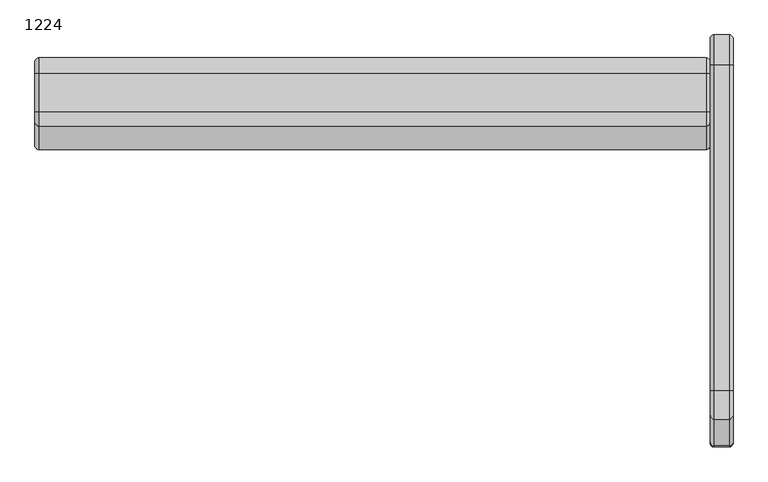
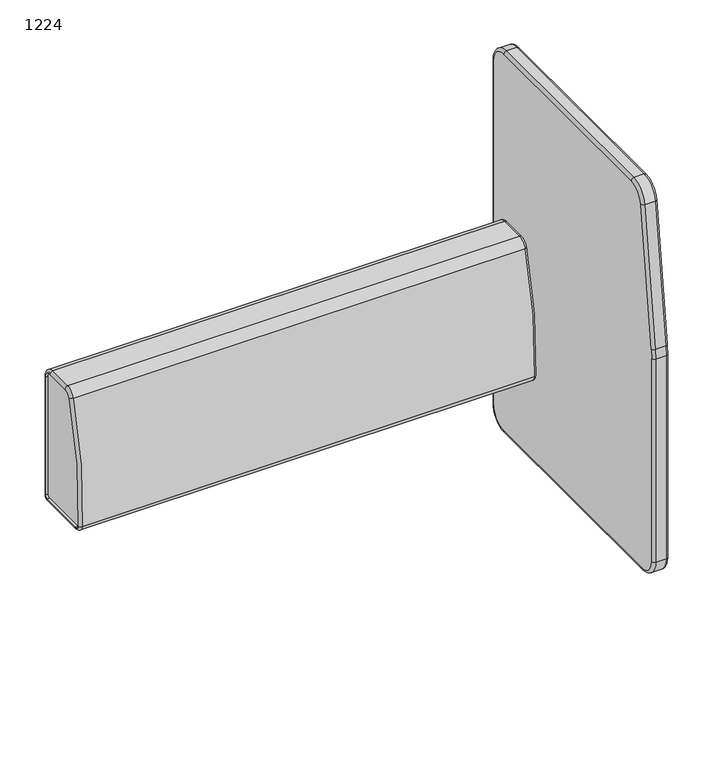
"""IFC4 building model written with IfcOpenShell, lengths in millimetres: furniture geometry, Laguna-Modular-Hideout-ERG : 1224."""

from ifc_helpers import new_model, si_unit, point, frame, origin, place, context, project, spatial, polyline, circle_curve, ellipse_curve, trimmed, source, transform, mapped, element, save
from ifc_brep_helpers import plane_surface, cylinder_surface, revolved_surface, advanced_brep


def furniture_1224_c7c1a432(model_context):
    return source(origin(), model_context, "Body", "AdvancedBrep", [
        advanced_brep(
        [(-3500.6921763, 635.4862683, 1147.5016884), (-3507.0421763, 641.7851414, 1146.6975135), (-3507.0421763, 597.5318227, 800.0738559), (-3500.6921763, 591.2329495, 800.8780307), (-3475.2921763, 591.2329495, 800.8780307), (-3475.2921763, 635.4862683, 1147.5016884), (-3468.9421763, 597.5318227, 800.0738559), (-3468.9421763, 641.7851414, 1146.6975135), (-3500.6921763, 589.6308502, 775.6785972), (-3507.0421763, 595.9808502, 775.6785972), (-3507.0421763, 595.9808502, 251.7902), (-3500.6921763, 589.6308502, 251.7902), (-3475.2921763, 589.6308502, 251.7902), (-3475.2921763, 589.6308502, 775.6785972), (-3468.9421763, 595.9808502, 251.7902), (-3468.9421763, 595.9808502, 775.6785972), (-3507.0421763, 638.2210502, 209.55), (-3500.6921763, 638.2210502, 203.2), (-3475.2921763, 638.2210502, 203.2), (-3468.9421763, 638.2210502, 209.55), (-3507.0421763, 1222.7258502, 209.55), (-3500.6921763, 1222.7258502, 203.2), (-3475.2921763, 1222.7258502, 203.2), (-3468.9421763, 1222.7258502, 209.55), (-3507.0421763, 1265.9058502, 252.73), (-3500.6921763, 1272.2558502, 252.73), (-3475.2921763, 1272.2558502, 252.73), (-3468.9421763, 1265.9058502, 252.73), (-3507.0421763, 1265.9058502, 1140.0520944), (-3500.6921763, 1272.2558502, 1140.0520944), (-3475.2921763, 1272.2558502, 1140.0520944), (-3468.9421763, 1265.9058502, 1140.0520944), (-3507.0421763, 1222.7258502, 1183.2320944), (-3500.6921763, 1222.7258502, 1189.5820944), (-3475.2921763, 1222.7258502, 1189.5820944), (-3468.9421763, 1222.7258502, 1183.2320944), (-3507.0421763, 683.2806242, 1183.2320944), (-3500.6921763, 683.2806242, 1189.5820944), (-3475.2921763, 683.2806242, 1189.5820944), (-3468.9421763, 683.2806242, 1183.2320944)],
        [
            (0, 1, circle_curve(frame((-3500.6921763, 641.7851414, 1146.6975135), z_axis=(0.0, -0.12664171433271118, -0.9919485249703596), x_axis=(0.0, 0.9919485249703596, -0.12664171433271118)), 6.35)),
            (1, 2),
            (2, 3, circle_curve(frame((-3500.6921763, 597.5318227, 800.0738559), z_axis=(0.0, 0.12664171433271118, 0.9919485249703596), x_axis=(0.0, 0.9919485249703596, -0.12664171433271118)), 6.35)),
            (3, 0),
            (3, 4),
            (4, 5),
            (5, 0),
            (4, 6, circle_curve(frame((-3475.2921763, 597.5318227, 800.0738559), z_axis=(0.0, 0.12664171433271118, 0.9919485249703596), x_axis=(0.0, 0.9919485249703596, -0.12664171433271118)), 6.35)),
            (6, 7),
            (7, 5, circle_curve(frame((-3475.2921763, 641.7851414, 1146.6975135), z_axis=(0.0, -0.12664171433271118, -0.9919485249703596), x_axis=(0.0, 0.9919485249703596, -0.12664171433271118)), 6.35)),
            (8, 9, circle_curve(frame((-3500.6921763, 595.9808502, 775.6785972), z_axis=(0.0, 0.0, -1.0), x_axis=(0.0, 1.0, 0.0)), 6.35)),
            (9, 10),
            (10, 11, circle_curve(frame((-3500.6921763, 595.9808502, 251.7902), z_axis=(0.0, 0.0, 1.0), x_axis=(0.0, 1.0, 0.0)), 6.35)),
            (11, 8),
            (11, 12),
            (12, 13),
            (13, 8),
            (12, 14, circle_curve(frame((-3475.2921763, 595.9808502, 251.7902), z_axis=(0.0, 0.0, 1.0), x_axis=(0.0, 1.0, 0.0)), 6.35)),
            (14, 15),
            (15, 13, circle_curve(frame((-3475.2921763, 595.9808502, 775.6785972), z_axis=(0.0, 0.0, -1.0), x_axis=(0.0, 1.0, 0.0)), 6.35)),
            (10, 16, circle_curve(frame((-3507.0421763, 638.2210502, 251.7902), z_axis=(1.0, 0.0, 0.0), x_axis=(0.0, -1.0, 0.0)), 42.2402)),
            (16, 17, circle_curve(frame((-3500.6921763, 638.2210502, 209.55), z_axis=(0.0, -1.0, 0.0), x_axis=(0.0, 0.0, 1.0)), 6.35)),
            (17, 11, circle_curve(frame((-3500.6921763, 638.2210502, 251.7902), z_axis=(-1.0, 0.0, 0.0), x_axis=(0.0, -1.0, 0.0)), 48.5902)),
            (17, 18),
            (18, 12, circle_curve(frame((-3475.2921763, 638.2210502, 251.7902), z_axis=(-1.0, 0.0, 0.0), x_axis=(0.0, -1.0, 0.0)), 48.5902)),
            (18, 19, circle_curve(frame((-3475.2921763, 638.2210502, 209.55), z_axis=(0.0, -1.0, 0.0), x_axis=(0.0, 0.0, 1.0)), 6.35)),
            (19, 14, circle_curve(frame((-3468.9421763, 638.2210502, 251.7902), z_axis=(-1.0, 0.0, 0.0), x_axis=(0.0, -1.0, 0.0)), 42.2402)),
            (16, 20),
            (20, 21, circle_curve(frame((-3500.6921763, 1222.7258502, 209.55), z_axis=(0.0, -1.0, 0.0), x_axis=(0.0, 0.0, 1.0)), 6.35)),
            (21, 17),
            (21, 22),
            (22, 18),
            (22, 23, circle_curve(frame((-3475.2921763, 1222.7258502, 209.55), z_axis=(0.0, -1.0, 0.0), x_axis=(0.0, 0.0, 1.0)), 6.35)),
            (23, 19),
            (20, 24, circle_curve(frame((-3507.0421763, 1222.7258502, 252.73), z_axis=(1.0, 0.0, 0.0), x_axis=(0.0, 0.0, -1.0)), 43.18)),
            (24, 25, circle_curve(frame((-3500.6921763, 1265.9058502, 252.73), z_axis=(0.0, 0.0, -1.0), x_axis=(0.0, -1.0, 0.0)), 6.35)),
            (25, 21, circle_curve(frame((-3500.6921763, 1222.7258502, 252.73), z_axis=(-1.0, 0.0, 0.0), x_axis=(0.0, 0.0, -1.0)), 49.53)),
            (25, 26),
            (26, 22, circle_curve(frame((-3475.2921763, 1222.7258502, 252.73), z_axis=(-1.0, 0.0, 0.0), x_axis=(0.0, 0.0, -1.0)), 49.53)),
            (26, 27, circle_curve(frame((-3475.2921763, 1265.9058502, 252.73), z_axis=(0.0, 0.0, -1.0), x_axis=(0.0, -1.0, 0.0)), 6.35)),
            (27, 23, circle_curve(frame((-3468.9421763, 1222.7258502, 252.73), z_axis=(-1.0, 0.0, 0.0), x_axis=(0.0, 0.0, -1.0)), 43.18)),
            (24, 28),
            (28, 29, circle_curve(frame((-3500.6921763, 1265.9058502, 1140.0520944), z_axis=(0.0, 0.0, -1.0), x_axis=(0.0, -1.0, 0.0)), 6.35)),
            (29, 25),
            (29, 30),
            (30, 26),
            (30, 31, circle_curve(frame((-3475.2921763, 1265.9058502, 1140.0520944), z_axis=(0.0, 0.0, -1.0), x_axis=(0.0, -1.0, 0.0)), 6.35)),
            (31, 27),
            (28, 32, circle_curve(frame((-3507.0421763, 1222.7258502, 1140.0520944), z_axis=(1.0, 0.0, 0.0), x_axis=(0.0, 1.0, 0.0)), 43.18)),
            (32, 33, circle_curve(frame((-3500.6921763, 1222.7258502, 1183.2320944), z_axis=(0.0, 1.0, 0.0), x_axis=(0.0, 0.0, -1.0)), 6.35)),
            (33, 29, circle_curve(frame((-3500.6921763, 1222.7258502, 1140.0520944), z_axis=(-1.0, 0.0, 0.0), x_axis=(0.0, 1.0, 0.0)), 49.53)),
            (33, 34),
            (34, 30, circle_curve(frame((-3475.2921763, 1222.7258502, 1140.0520944), z_axis=(-1.0, 0.0, 0.0), x_axis=(0.0, 1.0, 0.0)), 49.53)),
            (34, 35, circle_curve(frame((-3475.2921763, 1222.7258502, 1183.2320944), z_axis=(0.0, 1.0, 0.0), x_axis=(0.0, 0.0, -1.0)), 6.35)),
            (35, 31, circle_curve(frame((-3468.9421763, 1222.7258502, 1140.0520944), z_axis=(-1.0, 0.0, 0.0), x_axis=(0.0, 1.0, 0.0)), 43.18)),
            (32, 36),
            (36, 37, circle_curve(frame((-3500.6921763, 683.2806242, 1183.2320944), z_axis=(0.0, 1.0, 0.0), x_axis=(0.0, 0.0, -1.0)), 6.35)),
            (37, 33),
            (37, 38),
            (38, 34),
            (38, 39, circle_curve(frame((-3475.2921763, 683.2806242, 1183.2320944), z_axis=(0.0, 1.0, 0.0), x_axis=(0.0, 0.0, -1.0)), 6.35)),
            (39, 35),
            (0, 37, circle_curve(frame((-3500.6921763, 683.2806242, 1141.3998), z_axis=(-1.0, 0.0, 0.0), x_axis=(0.0, 0.0, 1.0)), 48.1822944)),
            (36, 1, circle_curve(frame((-3507.0421763, 683.2806242, 1141.3998), z_axis=(1.0, 0.0, 0.0), x_axis=(0.0, 0.0, 1.0)), 41.8322944)),
            (5, 38, circle_curve(frame((-3475.2921763, 683.2806242, 1141.3998), z_axis=(-1.0, 0.0, 0.0), x_axis=(0.0, 0.0, 1.0)), 48.1822944)),
            (7, 39, circle_curve(frame((-3468.9421763, 683.2806242, 1141.3998), z_axis=(-1.0, 0.0, 0.0), x_axis=(0.0, 0.0, 1.0)), 41.8322944)),
            (9, 2, circle_curve(frame((-3507.0421763, 788.6129446, 775.6785972), z_axis=(-1.0, 0.0, 0.0), x_axis=(0.0, -0.9919485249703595, 0.12664171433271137)), 192.6320944)),
            (8, 3, circle_curve(frame((-3500.6921763, 788.6129446, 775.6785972), z_axis=(-1.0, 0.0, 0.0), x_axis=(0.0, -0.9919485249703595, 0.12664171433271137)), 198.9820944)),
            (13, 4, circle_curve(frame((-3475.2921763, 788.6129446, 775.6785972), z_axis=(-1.0, 0.0, 0.0), x_axis=(0.0, -0.9919485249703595, 0.12664171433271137)), 198.9820944)),
            (15, 6, circle_curve(frame((-3468.9421763, 788.6129446, 775.6785972), z_axis=(-1.0, 0.0, 0.0), x_axis=(0.0, -0.9919485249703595, 0.12664171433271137)), 192.6320944)),
        ],
        [
            cylinder_surface(frame((-3500.6921763, 641.7851414, 1146.6975135), z_axis=(0.0, 0.12664171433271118, 0.9919485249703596), x_axis=(0.0, 0.9919485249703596, -0.12664171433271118)), 6.35),
            plane_surface(frame((-3500.6921763, 635.4862683, 1147.5016884), z_axis=(0.0, -0.9919485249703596, 0.12664171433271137), x_axis=(0.0, -0.12664171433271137, -0.9919485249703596))),
            cylinder_surface(frame((-3475.2921763, 641.7851414, 1146.6975135), z_axis=(0.0, 0.12664171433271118, 0.9919485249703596), x_axis=(0.0, 0.9919485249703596, -0.12664171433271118)), 6.35),
            cylinder_surface(frame((-3500.6921763, 595.9808502, 775.6785972), z_axis=(0.0, 0.0, 1.0), x_axis=(0.0, 1.0, 0.0)), 6.35),
            plane_surface(frame((-3500.6921763, 589.6308502, 775.6785972), z_axis=(0.0, -1.0, 0.0), x_axis=(0.0, 0.0, -1.0))),
            cylinder_surface(frame((-3475.2921763, 595.9808502, 775.6785972), z_axis=(0.0, 0.0, 1.0), x_axis=(0.0, 1.0, 0.0)), 6.35),
            revolved_surface(trimmed(ellipse_curve(frame((-3500.6921763, 595.9808502, 251.7902), z_axis=(0.0, 0.0, 1.0), x_axis=(0.0, 1.0, 0.0)), 6.35, 6.35), [point((-3507.0421763, 595.9808502, 251.7902))], [point((-3500.6921763, 589.6308502, 251.7902))], True, "CARTESIAN"), (-3468.9421763, 638.2210502, 251.7902), (1.0, 0.0, 0.0)),
            cylinder_surface(frame((-3468.9421763, 638.2210502, 251.7902), z_axis=(1.0, 0.0, 0.0), x_axis=(0.0, -1.0, 0.0)), 48.5902),
            revolved_surface(trimmed(ellipse_curve(frame((-3475.2921763, 595.9808502, 251.7902), z_axis=(0.0, 0.0, 1.0), x_axis=(0.0, 1.0, 0.0)), 6.35, 6.35), [point((-3475.2921763, 589.6308502, 251.7902))], [point((-3468.9421763, 595.9808502, 251.7902))], True, "CARTESIAN"), (-3468.9421763, 638.2210502, 251.7902), (1.0, 0.0, 0.0)),
            cylinder_surface(frame((-3500.6921763, 638.2210502, 209.55), z_axis=(0.0, -1.0, 0.0), x_axis=(0.0, 0.0, 1.0)), 6.35),
            plane_surface(frame((-3500.6921763, 638.2210502, 203.2), z_axis=(0.0, 0.0, -1.0), x_axis=(0.0, 1.0, 0.0))),
            cylinder_surface(frame((-3475.2921763, 638.2210502, 209.55), z_axis=(0.0, -1.0, 0.0), x_axis=(0.0, 0.0, 1.0)), 6.35),
            revolved_surface(trimmed(ellipse_curve(frame((-3500.6921763, 1222.7258502, 209.55), z_axis=(0.0, -1.0, 0.0), x_axis=(0.0, 0.0, 1.0)), 6.35, 6.35), [point((-3507.0421763, 1222.7258502, 209.55))], [point((-3500.6921763, 1222.7258502, 203.2))], True, "CARTESIAN"), (-3468.9421763, 1222.7258502, 252.73), (1.0, 0.0, 0.0)),
            cylinder_surface(frame((-3468.9421763, 1222.7258502, 252.73), z_axis=(1.0, 0.0, 0.0), x_axis=(0.0, 0.0, -1.0)), 49.53),
            revolved_surface(trimmed(ellipse_curve(frame((-3475.2921763, 1222.7258502, 209.55), z_axis=(0.0, -1.0, 0.0), x_axis=(0.0, 0.0, 1.0)), 6.35, 6.35), [point((-3475.2921763, 1222.7258502, 203.2))], [point((-3468.9421763, 1222.7258502, 209.55))], True, "CARTESIAN"), (-3468.9421763, 1222.7258502, 252.73), (1.0, 0.0, 0.0)),
            cylinder_surface(frame((-3500.6921763, 1265.9058502, 252.73), z_axis=(0.0, 0.0, -1.0), x_axis=(0.0, -1.0, 0.0)), 6.35),
            plane_surface(frame((-3500.6921763, 1272.2558502, 252.73), z_axis=(0.0, 1.0, 0.0), x_axis=(0.0, 0.0, 1.0))),
            cylinder_surface(frame((-3475.2921763, 1265.9058502, 252.73), z_axis=(0.0, 0.0, -1.0), x_axis=(0.0, -1.0, 0.0)), 6.35),
            revolved_surface(trimmed(ellipse_curve(frame((-3500.6921763, 1265.9058502, 1140.0520944), z_axis=(0.0, 0.0, -1.0), x_axis=(0.0, -1.0, 0.0)), 6.35, 6.35), [point((-3507.0421763, 1265.9058502, 1140.0520944))], [point((-3500.6921763, 1272.2558502, 1140.0520944))], True, "CARTESIAN"), (-3468.9421763, 1222.7258502, 1140.0520944), (1.0, 0.0, 0.0)),
            cylinder_surface(frame((-3468.9421763, 1222.7258502, 1140.0520944), z_axis=(1.0, 0.0, 0.0), x_axis=(0.0, 1.0, 0.0)), 49.53),
            revolved_surface(trimmed(ellipse_curve(frame((-3475.2921763, 1265.9058502, 1140.0520944), z_axis=(0.0, 0.0, -1.0), x_axis=(0.0, -1.0, 0.0)), 6.35, 6.35), [point((-3475.2921763, 1272.2558502, 1140.0520944))], [point((-3468.9421763, 1265.9058502, 1140.0520944))], True, "CARTESIAN"), (-3468.9421763, 1222.7258502, 1140.0520944), (1.0, 0.0, 0.0)),
            cylinder_surface(frame((-3500.6921763, 1222.7258502, 1183.2320944), z_axis=(0.0, 1.0, 0.0), x_axis=(0.0, 0.0, -1.0)), 6.35),
            plane_surface(frame((-3500.6921763, 1222.7258502, 1189.5820944), z_axis=(0.0, 0.0, 1.0), x_axis=(0.0, -1.0, 0.0))),
            cylinder_surface(frame((-3475.2921763, 1222.7258502, 1183.2320944), z_axis=(0.0, 1.0, 0.0), x_axis=(0.0, 0.0, -1.0)), 6.35),
            revolved_surface(trimmed(ellipse_curve(frame((-3500.6921763, 683.2806242, 1183.2320944), z_axis=(0.0, 1.0, 0.0), x_axis=(0.0, 0.0, -1.0)), 6.35, 6.35), [point((-3507.0421763, 683.2806242, 1183.2320944))], [point((-3500.6921763, 683.2806242, 1189.5820944))], True, "CARTESIAN"), (-3468.9421763, 683.2806242, 1141.3998), (1.0, 0.0, 0.0)),
            cylinder_surface(frame((-3468.9421763, 683.2806242, 1141.3998), z_axis=(1.0, 0.0, 0.0), x_axis=(0.0, 0.0, 1.0)), 48.1822944),
            revolved_surface(trimmed(ellipse_curve(frame((-3475.2921763, 683.2806242, 1183.2320944), z_axis=(0.0, 1.0, 0.0), x_axis=(0.0, 0.0, -1.0)), 6.35, 6.35), [point((-3475.2921763, 683.2806242, 1189.5820944))], [point((-3468.9421763, 683.2806242, 1183.2320944))], True, "CARTESIAN"), (-3468.9421763, 683.2806242, 1141.3998), (1.0, 0.0, 0.0)),
            plane_surface(frame((-3507.0421763, 788.6129446, 775.6785972), z_axis=(-1.0000000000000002, 0.0, 0.0), x_axis=(0.0, -0.9919485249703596, 0.1266417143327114))),
            revolved_surface(trimmed(ellipse_curve(frame((-3500.6921763, 597.5318227, 800.0738559), z_axis=(0.0, 0.12664171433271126, 0.9919485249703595), x_axis=(0.0, 0.9919485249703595, -0.12664171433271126)), 6.35, 6.35), [point((-3507.0421763, 597.5318227, 800.0738559))], [point((-3500.6921763, 591.2329495, 800.8780307))], True, "CARTESIAN"), (-3468.9421763, 788.6129446, 775.6785972), (1.0, 0.0, 0.0)),
            cylinder_surface(frame((-3468.9421763, 788.6129446, 775.6785972), z_axis=(1.0, 0.0, 0.0), x_axis=(0.0, -0.9919485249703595, 0.12664171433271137)), 198.9820944),
            revolved_surface(trimmed(ellipse_curve(frame((-3475.2921763, 597.5318227, 800.0738559), z_axis=(0.0, 0.12664171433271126, 0.9919485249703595), x_axis=(0.0, 0.9919485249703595, -0.12664171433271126)), 6.35, 6.35), [point((-3475.2921763, 591.2329495, 800.8780307))], [point((-3468.9421763, 597.5318227, 800.0738559))], True, "CARTESIAN"), (-3468.9421763, 788.6129446, 775.6785972), (1.0, 0.0, 0.0)),
            plane_surface(frame((-3468.9421763, 788.6129446, 775.6785972), z_axis=(1.0000000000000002, 0.0, 0.0), x_axis=(0.0, -0.9919485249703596, 0.1266417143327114))),
        ],
        [
            (0, [[1, 2, 3, 4]]),
            (1, [[-4, 5, 6, 7]]),
            (2, [[-6, 8, 9, 10]]),
            (3, [[11, 12, 13, 14]]),
            (4, [[-14, 15, 16, 17]]),
            (5, [[-16, 18, 19, 20]]),
            (6, [[-13, 21, 22, 23]]),
            (7, [[-15, -23, 24, 25]]),
            (8, [[-18, -25, 26, 27]]),
            (9, [[-22, 28, 29, 30]]),
            (10, [[-24, -30, 31, 32]]),
            (11, [[-26, -32, 33, 34]]),
            (12, [[-29, 35, 36, 37]]),
            (13, [[-31, -37, 38, 39]]),
            (14, [[-33, -39, 40, 41]]),
            (15, [[-36, 42, 43, 44]]),
            (16, [[-38, -44, 45, 46]]),
            (17, [[-40, -46, 47, 48]]),
            (18, [[-43, 49, 50, 51]]),
            (19, [[-45, -51, 52, 53]]),
            (20, [[-47, -53, 54, 55]]),
            (21, [[-50, 56, 57, 58]]),
            (22, [[-52, -58, 59, 60]]),
            (23, [[-54, -60, 61, 62]]),
            (24, [[-1, 63, -57, 64]]),
            (25, [[-7, 65, -59, -63]]),
            (26, [[-10, 66, -61, -65]]),
            (27, [[-2, -64, -56, -49, -42, -35, -28, -21, -12, 67]]),
            (28, [[-3, -67, -11, 68]]),
            (29, [[-5, -68, -17, 69]]),
            (30, [[-8, -69, -20, 70]]),
            (31, [[-9, -70, -19, -27, -34, -41, -48, -55, -62, -66]]),
        ],
    ),
        advanced_brep(
        [(-4618.2921763, 1121.3089686, 744.3916508), (-4624.6421763, 1127.3528197, 742.4437381), (-4624.6421763, 1088.8035624, 436.3225994), (-4618.2921763, 1082.4654689, 435.9339217), (-4618.2921763, 1127.3528197, 742.4437381), (-4618.2921763, 1088.8035624, 436.3225994), (-4624.6421763, 1100.3633388, 425.45), (-4618.2921763, 1100.3633388, 419.1), (-4618.2921763, 1100.3633388, 425.45), (-4624.6421763, 1221.4558502, 425.45), (-4618.2921763, 1221.4558502, 419.1), (-4618.2921763, 1221.4558502, 425.45), (-4624.6421763, 1227.8058502, 431.8), (-4618.2921763, 1234.1558502, 431.8), (-4618.2921763, 1227.8058502, 431.8), (-4624.6421763, 1227.8058502, 736.6), (-4618.2921763, 1234.1558502, 736.6), (-4618.2921763, 1227.8058502, 736.6), (-4624.6421763, 1208.7558502, 755.65), (-4618.2921763, 1208.7558502, 762.0), (-4618.2921763, 1208.7558502, 755.65), (-4624.6421763, 1145.484373, 755.65), (-4618.2921763, 1145.484373, 762.0), (-4618.2921763, 1145.484373, 755.65), (-3513.3921763, 1227.8058502, 736.6), (-3513.3921763, 1208.7558502, 755.65), (-3513.3921763, 1145.484373, 755.65), (-3513.3921763, 1127.3528197, 742.4437381), (-3513.3921763, 1088.8035624, 436.3225994), (-3513.3921763, 1100.3633388, 425.45), (-3513.3921763, 1221.4558502, 425.45), (-3513.3921763, 1227.8058502, 431.8), (-3513.3921763, 1082.4654689, 435.9339217), (-3513.3921763, 1100.3633388, 419.1), (-3513.3921763, 1221.4558502, 419.1), (-3513.3921763, 1234.1558502, 431.8), (-3513.3921763, 1234.1558502, 736.6), (-3513.3921763, 1208.7558502, 762.0), (-3513.3921763, 1145.484373, 762.0), (-3513.3921763, 1121.3089686, 744.3916508), (-3507.0421763, 1227.8058502, 736.6), (-3507.0421763, 1208.7558502, 755.65), (-3507.0421763, 1145.484373, 755.65), (-3507.0421763, 1127.3528197, 742.4437381), (-3507.0421763, 1088.8035624, 436.3225994), (-3507.0421763, 1100.3633388, 425.45), (-3507.0421763, 1221.4558502, 425.45), (-3507.0421763, 1227.8058502, 431.8)],
        [
            (0, 1, circle_curve(frame((-4618.2921763, 1127.3528197, 742.4437381), z_axis=(0.0, -0.3067579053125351, -0.95178757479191), x_axis=(0.0, 0.95178757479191, -0.3067579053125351)), 6.35)),
            (1, 2, circle_curve(frame((-4624.6421763, 1919.1691857, 487.2440105), z_axis=(1.0, 0.0, 0.0), x_axis=(0.0, -0.95178757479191, 0.30675790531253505)), 831.9255126)),
            (2, 3, circle_curve(frame((-4618.2921763, 1088.8035624, 436.3225994), z_axis=(0.0, -0.06120909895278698, 0.9981249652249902), x_axis=(0.0, 0.9981249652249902, 0.06120909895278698)), 6.35)),
            (3, 0, circle_curve(frame((-4618.2921763, 1919.1691857, 487.2440105), z_axis=(-1.0, 0.0, 0.0), x_axis=(0.0, -0.95178757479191, 0.30675790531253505)), 838.2755126)),
            (1, 4),
            (4, 5, circle_curve(frame((-4618.2921763, 1919.1691857, 487.2440105), z_axis=(1.0, 0.0, 0.0), x_axis=(0.0, -0.95178757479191, 0.30675790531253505)), 831.9255126)),
            (5, 2),
            (2, 6, circle_curve(frame((-4624.6421763, 1100.3633388, 437.0314921), z_axis=(1.0, 0.0, 0.0), x_axis=(0.0, -0.9981249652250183, -0.06120909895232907)), 11.5814921)),
            (6, 7, circle_curve(frame((-4618.2921763, 1100.3633388, 425.45), z_axis=(0.0, -0.9999999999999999, 0.0), x_axis=(0.0, 0.0, 0.9999999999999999)), 6.35)),
            (7, 3, circle_curve(frame((-4618.2921763, 1100.3633388, 437.0314921), z_axis=(-1.0, 0.0, 0.0), x_axis=(0.0, -0.9981249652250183, -0.06120909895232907)), 17.9314921)),
            (5, 8, circle_curve(frame((-4618.2921763, 1100.3633388, 437.0314921), z_axis=(1.0, 0.0, 0.0), x_axis=(0.0, -0.9981249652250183, -0.06120909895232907)), 11.5814921)),
            (8, 6),
            (6, 9),
            (9, 10, circle_curve(frame((-4618.2921763, 1221.4558502, 425.45), z_axis=(0.0, -1.0, 0.0), x_axis=(0.0, 0.0, 1.0)), 6.35)),
            (10, 7),
            (8, 11),
            (11, 9),
            (9, 12, circle_curve(frame((-4624.6421763, 1221.4558502, 431.8), z_axis=(1.0, 0.0, 0.0), x_axis=(0.0, 0.0, -1.0)), 6.35)),
            (12, 13, circle_curve(frame((-4618.2921763, 1227.8058502, 431.8), z_axis=(0.0, 0.0, -1.0), x_axis=(0.0, -1.0, 0.0)), 6.35)),
            (13, 10, circle_curve(frame((-4618.2921763, 1221.4558502, 431.8), z_axis=(-1.0, 0.0, 0.0), x_axis=(0.0, 0.0, -1.0)), 12.7)),
            (11, 14, circle_curve(frame((-4618.2921763, 1221.4558502, 431.8), z_axis=(1.0, 0.0, 0.0), x_axis=(0.0, 0.0, -1.0)), 6.35)),
            (14, 12),
            (12, 15),
            (15, 16, circle_curve(frame((-4618.2921763, 1227.8058502, 736.6), z_axis=(0.0, 0.0, -1.0), x_axis=(0.0, -1.0, 0.0)), 6.35)),
            (16, 13),
            (14, 17),
            (17, 15),
            (15, 18, circle_curve(frame((-4624.6421763, 1208.7558502, 736.6), z_axis=(1.0, 0.0, 0.0), x_axis=(0.0, 1.0, 0.0)), 19.05)),
            (18, 19, circle_curve(frame((-4618.2921763, 1208.7558502, 755.65), z_axis=(0.0, 1.0, 0.0), x_axis=(0.0, 0.0, -1.0)), 6.35)),
            (19, 16, circle_curve(frame((-4618.2921763, 1208.7558502, 736.6), z_axis=(-1.0, 0.0, 0.0), x_axis=(0.0, 1.0, 0.0)), 25.4)),
            (17, 20, circle_curve(frame((-4618.2921763, 1208.7558502, 736.6), z_axis=(1.0, 0.0, 0.0), x_axis=(0.0, 1.0, 0.0)), 19.05)),
            (20, 18),
            (18, 21),
            (21, 22, circle_curve(frame((-4618.2921763, 1145.484373, 755.65), z_axis=(0.0, 1.0, 0.0), x_axis=(0.0, 0.0, -1.0)), 6.35)),
            (22, 19),
            (20, 23),
            (23, 21),
            (0, 22, circle_curve(frame((-4618.2921763, 1145.484373, 736.6), z_axis=(-1.0, 0.0, 0.0), x_axis=(0.0, 0.0, 1.0)), 25.4)),
            (21, 1, circle_curve(frame((-4624.6421763, 1145.484373, 736.6), z_axis=(1.0, 0.0, 0.0), x_axis=(0.0, 0.0, 1.0)), 19.05)),
            (23, 4, circle_curve(frame((-4618.2921763, 1145.484373, 736.6), z_axis=(1.0, 0.0, 0.0), x_axis=(0.0, 0.0, 1.0)), 19.05)),
            (24, 25, circle_curve(frame((-3513.3921763, 1208.7558502, 736.6), z_axis=(1.0, 0.0, 0.0), x_axis=(0.0, 1.0, 0.0)), 19.05)),
            (25, 26),
            (26, 27, circle_curve(frame((-3513.3921763, 1145.484373, 736.6), z_axis=(1.0, 0.0, 0.0), x_axis=(0.0, 0.0, 1.0)), 19.05)),
            (27, 28, circle_curve(frame((-3513.3921763, 1919.1691857, 487.2440105), z_axis=(1.0, 0.0, 0.0), x_axis=(0.0, -0.95178757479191, 0.30675790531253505)), 831.9255126)),
            (28, 29, circle_curve(frame((-3513.3921763, 1100.3633388, 437.0314921), z_axis=(1.0, 0.0, 0.0), x_axis=(0.0, -0.9981249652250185, -0.06120909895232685)), 11.5814921)),
            (29, 30),
            (30, 31, circle_curve(frame((-3513.3921763, 1221.4558502, 431.8), z_axis=(1.0, 0.0, 0.0), x_axis=(0.0, 0.0, -1.0)), 6.35)),
            (31, 24),
            (32, 3),
            (7, 33),
            (33, 32, circle_curve(frame((-3513.3921763, 1100.3633388, 437.0314921), z_axis=(-1.0, 0.0, 0.0), x_axis=(0.0, 1.0, 0.0)), 17.9314921)),
            (10, 34),
            (34, 33),
            (13, 35),
            (35, 34, circle_curve(frame((-3513.3921763, 1221.4558502, 431.8), z_axis=(-1.0, 0.0, 0.0), x_axis=(0.0, 1.0, 0.0)), 12.7)),
            (16, 36),
            (36, 35),
            (19, 37),
            (37, 36, circle_curve(frame((-3513.3921763, 1208.7558502, 736.6), z_axis=(-1.0, 0.0, 0.0), x_axis=(0.0, 1.0, 0.0)), 25.4)),
            (22, 38),
            (38, 37),
            (0, 39),
            (39, 38, circle_curve(frame((-3513.3921763, 1145.484373, 736.6), z_axis=(-1.0, 0.0, 0.0), x_axis=(0.0, 1.0, 0.0)), 25.4)),
            (32, 39, circle_curve(frame((-3513.3921763, 1919.1691857, 487.2440105), z_axis=(-1.0, 0.0, 0.0), x_axis=(0.0, 1.0, 0.0)), 838.2755126)),
            (24, 40),
            (40, 41, circle_curve(frame((-3507.0421763, 1208.7558502, 736.6), z_axis=(1.0, 0.0, 0.0), x_axis=(0.0, 1.0, 0.0)), 19.05)),
            (41, 25),
            (40, 36, circle_curve(frame((-3513.3921763, 1227.8058502, 736.6), z_axis=(0.0, 0.0, 1.0), x_axis=(0.0, -1.0, 0.0)), 6.35)),
            (37, 41, circle_curve(frame((-3513.3921763, 1208.7558502, 755.65), z_axis=(0.0, 1.0, 0.0), x_axis=(0.0, 0.0, -1.0)), 6.35)),
            (41, 42),
            (42, 26),
            (38, 42, circle_curve(frame((-3513.3921763, 1145.484373, 755.65), z_axis=(0.0, 1.0, 0.0), x_axis=(0.0, 0.0, -1.0)), 6.35)),
            (42, 43, circle_curve(frame((-3507.0421763, 1145.484373, 736.6), z_axis=(1.0, 0.0, 0.0), x_axis=(0.0, 0.0, 1.0)), 19.05)),
            (43, 27),
            (39, 43, circle_curve(frame((-3513.3921763, 1127.3528197, 742.4437381), z_axis=(0.0, 0.30675790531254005, 0.9517875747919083), x_axis=(0.0, 0.9517875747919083, -0.30675790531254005)), 6.35)),
            (43, 44, circle_curve(frame((-3507.0421763, 1919.1691857, 487.2440105), z_axis=(1.0, 0.0, 0.0), x_axis=(0.0, -0.95178757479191, 0.30675790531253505)), 831.9255126)),
            (44, 28),
            (32, 44, circle_curve(frame((-3513.3921763, 1088.8035624, 436.3225994), z_axis=(0.0, -0.06120909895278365, 0.9981249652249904), x_axis=(0.0, 0.9981249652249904, 0.06120909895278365)), 6.35)),
            (44, 45, circle_curve(frame((-3507.0421763, 1100.3633388, 437.0314921), z_axis=(1.0, 0.0, 0.0), x_axis=(0.0, -0.9981249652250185, -0.06120909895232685)), 11.5814921)),
            (45, 29),
            (33, 45, circle_curve(frame((-3513.3921763, 1100.3633388, 425.45), z_axis=(0.0, -1.0, 0.0), x_axis=(0.0, 0.0, 1.0)), 6.35)),
            (45, 46),
            (46, 30),
            (34, 46, circle_curve(frame((-3513.3921763, 1221.4558502, 425.45), z_axis=(0.0, -1.0, 0.0), x_axis=(0.0, 0.0, 1.0)), 6.35)),
            (46, 47, circle_curve(frame((-3507.0421763, 1221.4558502, 431.8), z_axis=(1.0, 0.0, 0.0), x_axis=(0.0, 0.0, -1.0)), 6.35)),
            (47, 31),
            (35, 47, circle_curve(frame((-3513.3921763, 1227.8058502, 431.8), z_axis=(0.0, 0.0, -1.0), x_axis=(0.0, -1.0, 0.0)), 6.35)),
            (47, 40),
        ],
        [
            revolved_surface(trimmed(ellipse_curve(frame((-4618.2921763, 1127.3528197, 742.4437381), z_axis=(0.0, 0.3067579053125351, 0.95178757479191), x_axis=(0.0, 0.95178757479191, -0.3067579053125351)), 6.35, 6.35), [point((-4624.6421763, 1127.3528197, 742.4437381))], [point((-4618.2921763, 1121.3089686, 744.3916508))], True, "CARTESIAN"), (-4618.2921763, 1919.1691857, 487.2440105), (1.0, 0.0, 0.0)),
            revolved_surface(polyline([(-4618.2921763, 1127.3528196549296, 742.443738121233), (-4624.6421763, 1127.3528196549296, 742.443738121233)]), (-4618.2921763, 1919.1691857, 487.2440105), (1.0, 0.0, 0.0)),
            revolved_surface(trimmed(ellipse_curve(frame((-4618.2921763, 1088.8035624, 436.3225994), z_axis=(0.0, -0.06120909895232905, 0.9981249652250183), x_axis=(0.0, 0.9981249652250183, 0.06120909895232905)), 6.35, 6.35), [point((-4624.6421763, 1088.8035624, 436.3225994))], [point((-4618.2921763, 1082.4654689, 435.9339217))], True, "CARTESIAN"), (-4618.2921763, 1100.3633388, 437.0314921), (1.0, 0.0, 0.0)),
            revolved_surface(polyline([(-4618.2921763, 1088.8035624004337, 436.3225994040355), (-4624.6421763, 1088.8035624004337, 436.3225994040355)]), (-4618.2921763, 1100.3633388, 437.0314921), (1.0, 0.0, 0.0)),
            cylinder_surface(frame((-4618.2921763, 1100.3633388, 425.45), z_axis=(0.0, -1.0, 0.0), x_axis=(0.0, 0.0, 1.0)), 6.35),
            plane_surface(frame((-4618.2921763, 1100.3633388, 425.45), z_axis=(0.0, 0.0, 1.0), x_axis=(0.0, 1.0, 0.0))),
            revolved_surface(trimmed(ellipse_curve(frame((-4618.2921763, 1221.4558502, 425.45), z_axis=(0.0, -1.0, 0.0), x_axis=(0.0, 0.0, 1.0)), 6.35, 6.35), [point((-4624.6421763, 1221.4558502, 425.45))], [point((-4618.2921763, 1221.4558502, 419.1))], True, "CARTESIAN"), (-4618.2921763, 1221.4558502, 431.8), (1.0, 0.0, 0.0)),
            revolved_surface(polyline([(-4618.2921763, 1221.4558502, 425.45), (-4624.6421763, 1221.4558502, 425.45)]), (-4618.2921763, 1221.4558502, 431.8), (1.0, 0.0, 0.0)),
            cylinder_surface(frame((-4618.2921763, 1227.8058502, 431.8), z_axis=(0.0, 0.0, -1.0), x_axis=(0.0, -1.0, 0.0)), 6.35),
            plane_surface(frame((-4618.2921763, 1227.8058502, 431.8), z_axis=(0.0, -1.0, 0.0), x_axis=(0.0, 0.0, 1.0))),
            revolved_surface(trimmed(ellipse_curve(frame((-4618.2921763, 1227.8058502, 736.6), z_axis=(0.0, 0.0, -1.0), x_axis=(0.0, -1.0, 0.0)), 6.35, 6.35), [point((-4624.6421763, 1227.8058502, 736.6))], [point((-4618.2921763, 1234.1558502, 736.6))], True, "CARTESIAN"), (-4618.2921763, 1208.7558502, 736.6), (1.0, 0.0, 0.0)),
            revolved_surface(polyline([(-4618.2921763, 1227.8058502, 736.6), (-4624.6421763, 1227.8058502, 736.6)]), (-4618.2921763, 1208.7558502, 736.6), (1.0, 0.0, 0.0)),
            cylinder_surface(frame((-4618.2921763, 1208.7558502, 755.65), z_axis=(0.0, 1.0, 0.0), x_axis=(0.0, 0.0, -1.0)), 6.35),
            plane_surface(frame((-4618.2921763, 1208.7558502, 755.65), z_axis=(0.0, 0.0, -1.0), x_axis=(0.0, -1.0, 0.0))),
            revolved_surface(trimmed(ellipse_curve(frame((-4618.2921763, 1145.484373, 755.65), z_axis=(0.0, 1.0, 0.0), x_axis=(0.0, 0.0, -1.0)), 6.35, 6.35), [point((-4624.6421763, 1145.484373, 755.65))], [point((-4618.2921763, 1145.484373, 762.0))], True, "CARTESIAN"), (-4618.2921763, 1145.484373, 736.6), (1.0, 0.0, 0.0)),
            revolved_surface(polyline([(-4618.2921763, 1145.484373, 755.65), (-4624.6421763, 1145.484373, 755.65)]), (-4618.2921763, 1145.484373, 736.6), (1.0, 0.0, 0.0)),
            plane_surface(frame((-3513.3921763, 1118.294831, 437.0314921), z_axis=(1.0, 0.0, 0.0), x_axis=(0.0, 0.0, 1.0))),
            plane_surface(frame((-4618.2921763, 1118.294831, 437.0314921), z_axis=(-1.0, 0.0, 0.0), x_axis=(0.0, 0.0, -1.0))),
            cylinder_surface(frame((-4618.2921763, 1100.3633388, 437.0314921), z_axis=(1.0, 0.0, 0.0), x_axis=(0.0, 1.0, 0.0)), 17.9314921),
            plane_surface(frame((-3513.3921763, 1100.3633388, 419.1), z_axis=(0.0, 0.0, -1.0), x_axis=(-1.0, 0.0, 0.0))),
            cylinder_surface(frame((-4618.2921763, 1221.4558502, 431.8), z_axis=(1.0, 0.0, 0.0), x_axis=(0.0, 1.0, 0.0)), 12.7),
            plane_surface(frame((-3513.3921763, 1234.1558502, 431.8), z_axis=(0.0, 1.0, 0.0), x_axis=(-1.0, 0.0, 0.0))),
            cylinder_surface(frame((-4618.2921763, 1208.7558502, 736.6), z_axis=(1.0, 0.0, 0.0), x_axis=(0.0, 1.0, 0.0)), 25.4),
            plane_surface(frame((-3513.3921763, 1208.7558502, 762.0), z_axis=(0.0, 0.0, 1.0), x_axis=(-1.0, 0.0, 0.0))),
            cylinder_surface(frame((-4618.2921763, 1145.484373, 736.6), z_axis=(1.0, 0.0, 0.0), x_axis=(0.0, 1.0, 0.0)), 25.4),
            cylinder_surface(frame((-4618.2921763, 1919.1691857, 487.2440105), z_axis=(1.0, 0.0, 0.0), x_axis=(0.0, 1.0, 0.0)), 838.2755126),
            revolved_surface(polyline([(-3507.0421763, 1227.8058502, 736.6), (-3513.3921763, 1227.8058502, 736.6)]), (-3513.3921763, 1208.7558502, 736.6), (1.0, 0.0, 0.0)),
            revolved_surface(trimmed(ellipse_curve(frame((-3513.3921763, 1227.8058502, 736.6), z_axis=(0.0, 0.0, -1.0), x_axis=(0.0, -1.0, 0.0)), 6.35, 6.35), [point((-3513.3921763, 1234.1558502, 736.6))], [point((-3507.0421763, 1227.8058502, 736.6))], True, "CARTESIAN"), (-3513.3921763, 1208.7558502, 736.6), (1.0, 0.0, 0.0)),
            plane_surface(frame((-3507.0421763, 1208.7558502, 755.65), z_axis=(0.0, 0.0, -1.0), x_axis=(0.0, -1.0, 0.0))),
            cylinder_surface(frame((-3513.3921763, 1208.7558502, 755.65), z_axis=(0.0, 1.0, 0.0), x_axis=(0.0, 0.0, -1.0)), 6.35),
            revolved_surface(polyline([(-3507.0421763, 1145.484373, 755.65), (-3513.3921763, 1145.484373, 755.65)]), (-3513.3921763, 1145.484373, 736.6), (1.0, 0.0, 0.0)),
            revolved_surface(trimmed(ellipse_curve(frame((-3513.3921763, 1145.484373, 755.65), z_axis=(0.0, 1.0, 0.0), x_axis=(0.0, 0.0, -1.0)), 6.35, 6.35), [point((-3513.3921763, 1145.484373, 762.0))], [point((-3507.0421763, 1145.484373, 755.65))], True, "CARTESIAN"), (-3513.3921763, 1145.484373, 736.6), (1.0, 0.0, 0.0)),
            revolved_surface(polyline([(-3507.0421763, 1127.3528196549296, 742.443738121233), (-3513.3921763, 1127.3528196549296, 742.443738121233)]), (-3513.3921763, 1919.1691857, 487.2440105), (1.0, 0.0, 0.0)),
            revolved_surface(trimmed(ellipse_curve(frame((-3513.3921763, 1127.3528197, 742.4437381), z_axis=(0.0, 0.3067579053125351, 0.95178757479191), x_axis=(0.0, 0.95178757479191, -0.3067579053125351)), 6.35, 6.35), [point((-3513.3921763, 1121.3089686, 744.3916508))], [point((-3507.0421763, 1127.3528197, 742.4437381))], True, "CARTESIAN"), (-3513.3921763, 1919.1691857, 487.2440105), (1.0, 0.0, 0.0)),
            revolved_surface(polyline([(-3507.0421763, 1088.8035624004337, 436.3225994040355), (-3513.3921763, 1088.8035624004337, 436.3225994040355)]), (-3513.3921763, 1100.3633388, 437.0314921), (1.0, 0.0, 0.0)),
            revolved_surface(trimmed(ellipse_curve(frame((-3513.3921763, 1088.8035624, 436.3225994), z_axis=(0.0, -0.06120909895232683, 0.9981249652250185), x_axis=(0.0, 0.9981249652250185, 0.06120909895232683)), 6.35, 6.35), [point((-3513.3921763, 1082.4654689, 435.9339217))], [point((-3507.0421763, 1088.8035624, 436.3225994))], True, "CARTESIAN"), (-3513.3921763, 1100.3633388, 437.0314921), (1.0, 0.0, 0.0)),
            plane_surface(frame((-3507.0421763, 1100.3633388, 425.45), z_axis=(0.0, 0.0, 1.0), x_axis=(0.0, 1.0, 0.0))),
            cylinder_surface(frame((-3513.3921763, 1100.3633388, 425.45), z_axis=(0.0, -1.0, 0.0), x_axis=(0.0, 0.0, 1.0)), 6.35),
            revolved_surface(polyline([(-3507.0421763, 1221.4558502, 425.45), (-3513.3921763, 1221.4558502, 425.45)]), (-3513.3921763, 1221.4558502, 431.8), (1.0, 0.0, 0.0)),
            revolved_surface(trimmed(ellipse_curve(frame((-3513.3921763, 1221.4558502, 425.45), z_axis=(0.0, -1.0, 0.0), x_axis=(0.0, 0.0, 1.0)), 6.35, 6.35), [point((-3513.3921763, 1221.4558502, 419.1))], [point((-3507.0421763, 1221.4558502, 425.45))], True, "CARTESIAN"), (-3513.3921763, 1221.4558502, 431.8), (1.0, 0.0, 0.0)),
            plane_surface(frame((-3507.0421763, 1227.8058502, 431.8), z_axis=(0.0, -1.0, 0.0), x_axis=(0.0, 0.0, 1.0))),
            cylinder_surface(frame((-3513.3921763, 1227.8058502, 431.8), z_axis=(0.0, 0.0, -1.0), x_axis=(0.0, -1.0, 0.0)), 6.35),
        ],
        [
            (0, [[1, 2, 3, 4]]),
            (1, [[-2, 5, 6, 7]]),
            (2, [[-3, 8, 9, 10]]),
            (3, [[-7, 11, 12, -8]]),
            (4, [[-9, 13, 14, 15]]),
            (5, [[-12, 16, 17, -13]]),
            (6, [[-14, 18, 19, 20]]),
            (7, [[-17, 21, 22, -18]]),
            (8, [[-19, 23, 24, 25]]),
            (9, [[-22, 26, 27, -23]]),
            (10, [[-24, 28, 29, 30]]),
            (11, [[-27, 31, 32, -28]]),
            (12, [[-29, 33, 34, 35]]),
            (13, [[-32, 36, 37, -33]]),
            (14, [[-1, 38, -34, 39]]),
            (15, [[-5, -39, -37, 40]]),
            (16, [[41, 42, 43, 44, 45, 46, 47, 48]]),
            (17, [[-6, -40, -36, -31, -26, -21, -16, -11]]),
            (18, [[49, -10, 50, 51]]),
            (19, [[-50, -15, 52, 53]]),
            (20, [[-52, -20, 54, 55]]),
            (21, [[-54, -25, 56, 57]]),
            (22, [[-56, -30, 58, 59]]),
            (23, [[-58, -35, 60, 61]]),
            (24, [[-60, -38, 62, 63]]),
            (25, [[-49, 64, -62, -4]]),
            (26, [[65, 66, 67, -41]]),
            (27, [[-66, 68, -59, 69]]),
            (28, [[-67, 70, 71, -42]]),
            (29, [[-69, -61, 72, -70]]),
            (30, [[-71, 73, 74, -43]]),
            (31, [[-72, -63, 75, -73]]),
            (32, [[-74, 76, 77, -44]]),
            (33, [[-75, -64, 78, -76]]),
            (34, [[-77, 79, 80, -45]]),
            (35, [[-78, -51, 81, -79]]),
            (36, [[-80, 82, 83, -46]]),
            (37, [[-81, -53, 84, -82]]),
            (38, [[-83, 85, 86, -47]]),
            (39, [[-84, -55, 87, -85]]),
            (40, [[-65, -48, -86, 88]]),
            (41, [[-68, -88, -87, -57]]),
        ],
    ),
    ])


if __name__ == "__main__":
    model = new_model("IFC4")
    model_context = context("Model", 3, world=origin())
    ifc_project = project(units=[si_unit("LENGTHUNIT", "METRE", prefix="MILLI")], contexts=[model_context])
    site = spatial("IfcSite", under=ifc_project)
    building = spatial("IfcBuilding", under=site)
    placement = place(None, origin())
    furniture_1224_shape = furniture_1224_c7c1a432(model_context)
    element("IfcFurniture", 1, ObjectType="Laguna-Modular-Hideout-ERG : 1224", at=placement, inside=building, context=model_context, shape_type="MappedRepresentation", body=[
        mapped(furniture_1224_shape, transform((0.0, 0.0, 0.0), x_axis=(1.0, 0.0, 0.0), y_axis=(0.0, 1.0, 0.0), z_axis=(0.0, 0.0, 1.0))),
    ])
    save(model, "model.ifc")
